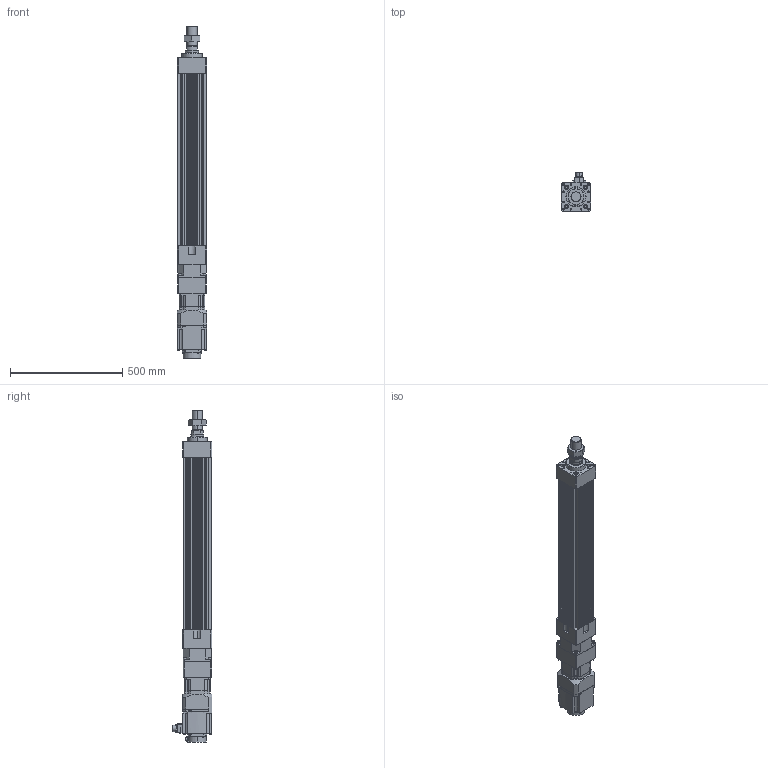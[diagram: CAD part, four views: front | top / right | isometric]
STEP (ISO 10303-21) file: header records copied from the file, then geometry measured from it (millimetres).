
FILE_DESCRIPTION (( 'STEP AP203' ), '1' );
FILE_NAME ('HES130NS(FS)(HS)-S550-W015G00-M.STEP', '2023-01-30T08:21:47', ( 'tms' ), ( '' ), 'SwSTEP 2.0', 'SolidWorks 2013', '' );
FILE_SCHEMA (( 'CONFIG_CONTROL_DESIGN' ));
Length unit declared in the file: millimetre
Products named in the file (8): HES130NS(FS)(HS)-S550-W015G00-M; HES130-S550-G120; P0401400706; M45X1.5P; AB115-003[HG-SR152]; HES130 ROD M ST550; HG-SR152; AB1151
Assembly tree (7 placements, depth 3):
  HES130NS(FS)(HS)-S550-W015G00-M
    HES130-S550-G120
    HES130 ROD M ST550
    M45X1.5P
    AB115-003[HG-SR152]
      AB1151
      P0401400706
    HG-SR152
Bounding box: 130 x 177.49 x 1479.5 mm (x, y, z)
Volume: 11564164.7 mm3; surface area: 1510928.3 mm2
Topology: 4 solids, 15 shells, 1220 faces, 3076 edges, 1983 vertices
Faces by surface type: cylinder 553, plane 551, cone 104, bspline 8, torus 4
Entity records: 38254 total; most frequent: CARTESIAN_POINT 7242, DIRECTION 6653, ORIENTED_EDGE 6060, EDGE_CURVE 3040, AXIS2_PLACEMENT_3D 2462, VERTEX_POINT 1983, LINE 1729, VECTOR 1729
